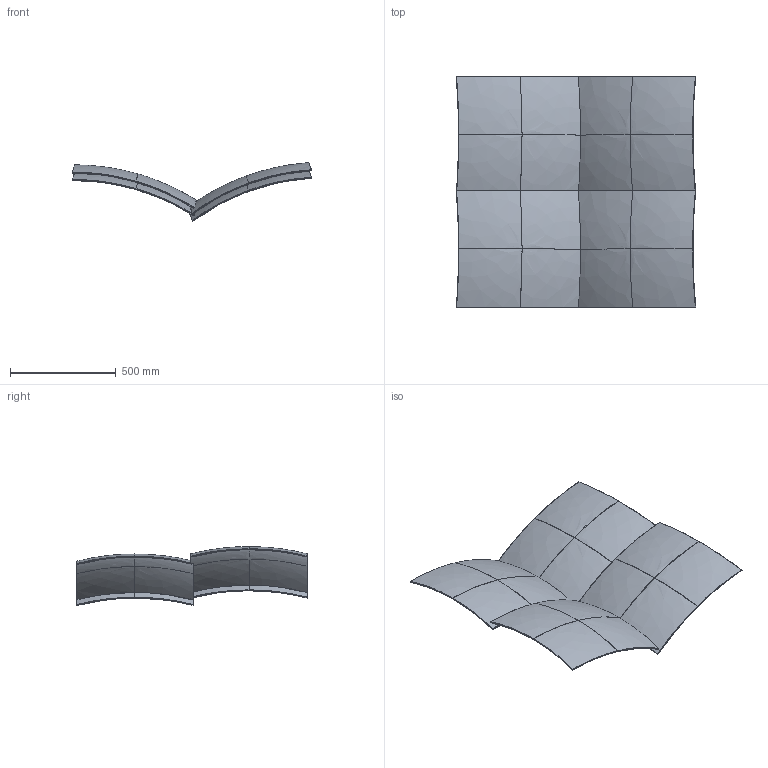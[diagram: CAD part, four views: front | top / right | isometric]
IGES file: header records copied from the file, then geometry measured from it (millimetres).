
Start section: C
Global section: file name: mirror_assembly.igs; native system:  By UGS Corp.; preprocessor: XPlus GENERIC/IGES 3.0; author: Author; organization: Title; date: 20110219.170830; units: millimetre
Bounding box: 1133.4 x 1090 x 278.61 mm (x, y, z)
Surface area: 5449423.6 mm2 (no closed solid volume)
Topology: 0 solids, 0 shells, 96 faces, 512 edges, 448 vertices
Faces by surface type: bspline 96
